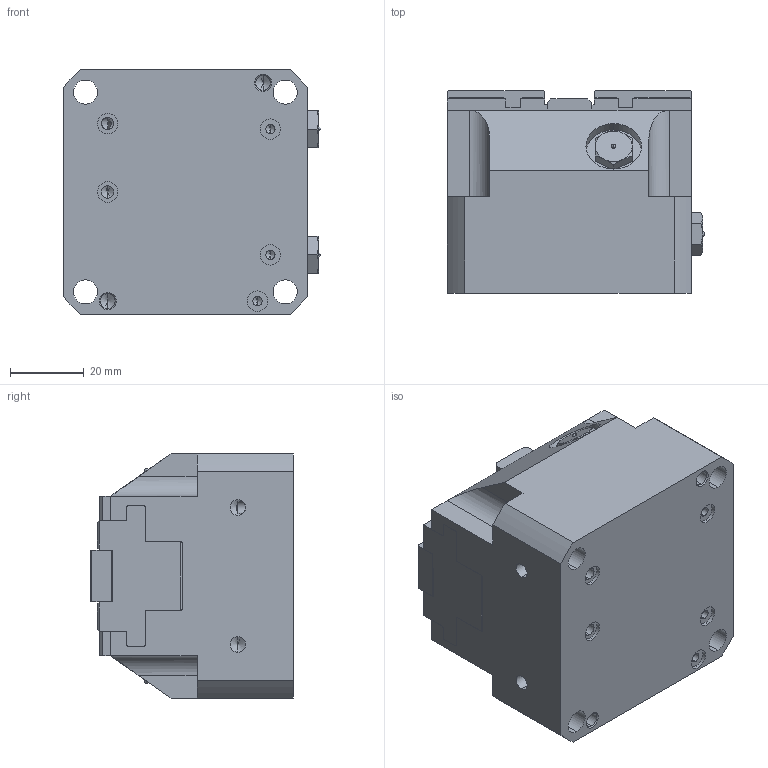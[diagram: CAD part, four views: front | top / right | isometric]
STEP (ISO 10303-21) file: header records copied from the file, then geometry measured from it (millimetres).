
FILE_DESCRIPTION (( 'STEP AP203' ), '1' );
FILE_NAME ('CFB-66 PN.STEP', '2013-01-07T12:51:58', ( 'BOLOGNESE' ), ( '' ), 'SwSTEP 2.0', 'SolidWorks 2009', '' );
FILE_SCHEMA (( 'CONFIG_CONTROL_DESIGN' ));
Length unit declared in the file: millimetre
Products named in the file (4): Corpo; Griffa; CFB-66 PN; Coperchio
Assembly tree (4 placements, depth 2):
  CFB-66 PN
    Corpo
    Griffa  x2
    Coperchio
Bounding box: 69.6 x 54.8 x 66 mm (x, y, z)
Volume: 192636.4 mm3; surface area: 39202.3 mm2
Topology: 4 solids, 4 shells, 438 faces, 1128 edges, 678 vertices
Faces by surface type: plane 235, cylinder 104, cone 91, sphere 8
Entity records: 10160 total; most frequent: CARTESIAN_POINT 1988, DIRECTION 1612, ORIENTED_EDGE 1586, EDGE_CURVE 793, AXIS2_PLACEMENT_3D 550, VECTOR 512, LINE 512, VERTEX_POINT 502
